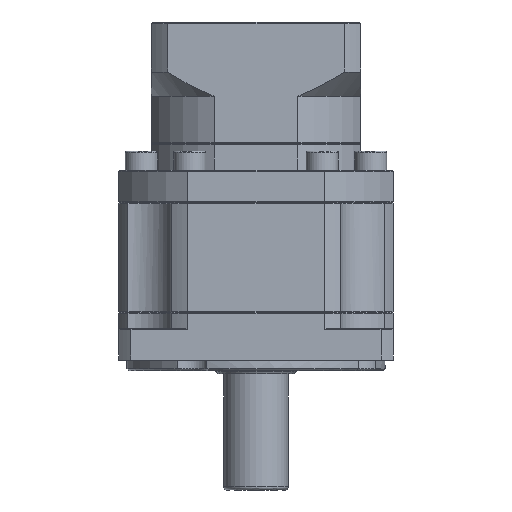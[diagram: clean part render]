
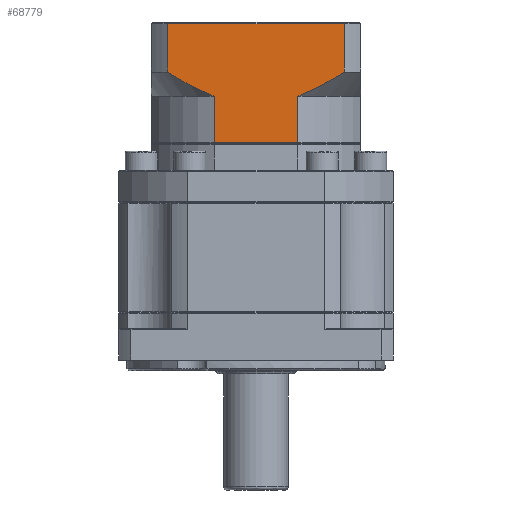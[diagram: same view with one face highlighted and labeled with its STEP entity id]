
A CAD part, front view. The second image highlights one B-rep face of the part: STEP entity #68779.
In plain terms, the highlighted planar face has unit normal (0, -1, 0).
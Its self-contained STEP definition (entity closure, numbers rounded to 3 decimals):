
#3692 = ORIENTED_EDGE ( 'NONE', *, *, #19219, .F. ) ;
#4358 = CARTESIAN_POINT ( 'NONE',  ( 0.404, -39.013, 180.652 ) ) ;
#6821 = CARTESIAN_POINT ( 'NONE',  ( -13.991, -39.013, 175.652 ) ) ;
#10899 = ORIENTED_EDGE ( 'NONE', *, *, #78548, .F. ) ;
#15903 = CARTESIAN_POINT ( 'NONE',  ( -54.368, -39.013, 183.152 ) ) ;
#16642 = AXIS2_PLACEMENT_3D ( 'NONE', #23662, #115817, #93488 ) ;
#17132 = EDGE_CURVE ( 'NONE', #107011, #53550, #99229, .T. ) ;
#19192 = CARTESIAN_POINT ( 'NONE',  ( -0.734, -39.013, 182.418 ) ) ;
#19219 = EDGE_CURVE ( 'NONE', #75888, #79891, #77732, .T. ) ;
#22879 = CARTESIAN_POINT ( 'NONE',  ( -54.368, -39.013, 198.152 ) ) ;
#23662 = CARTESIAN_POINT ( 'NONE',  ( 5.518, -39.013, 198.652 ) ) ;
#26551 = VECTOR ( 'NONE', #128887, 1000. ) ;
#28315 = CARTESIAN_POINT ( 'NONE',  ( -40.615, -39.013, 175.89 ) ) ;
#28349 = VECTOR ( 'NONE', #67213, 1000. ) ;
#29022 = CARTESIAN_POINT ( 'NONE',  ( 0.404, -39.013, 183.152 ) ) ;
#31202 = CARTESIAN_POINT ( 'NONE',  ( -54.368, -39.013, 183.152 ) ) ;
#32620 = CARTESIAN_POINT ( 'NONE',  ( -13.991, -39.013, 175.652 ) ) ;
#33776 = CARTESIAN_POINT ( 'NONE',  ( 0.404, -39.013, 198.152 ) ) ;
#35791 = CARTESIAN_POINT ( 'NONE',  ( 5.518, -39.013, 161.241 ) ) ;
#36874 = ORIENTED_EDGE ( 'NONE', *, *, #17132, .F. ) ;
#38186 = CARTESIAN_POINT ( 'NONE',  ( -54.368, -39.013, 198.152 ) ) ;
#41855 = CARTESIAN_POINT ( 'NONE',  ( 0.404, -39.013, 183.152 ) ) ;
#43727 = CARTESIAN_POINT ( 'NONE',  ( -52.099, -39.013, 181.69 ) ) ;
#45187 = LINE ( 'NONE', #4358, #93148 ) ;
#45220 = VECTOR ( 'NONE', #111273, 1000. ) ;
#46682 = VERTEX_POINT ( 'NONE', #33776 ) ;
#49417 = CARTESIAN_POINT ( 'NONE',  ( -42.514, -39.013, 176.668 ) ) ;
#49700 = CARTESIAN_POINT ( 'NONE',  ( -1.886, -39.013, 181.703 ) ) ;
#51436 = VERTEX_POINT ( 'NONE', #38186 ) ;
#53274 = CARTESIAN_POINT ( 'NONE',  ( -11.453, -39.013, 176.594 ) ) ;
#53550 = VERTEX_POINT ( 'NONE', #6821 ) ;
#53581 = CARTESIAN_POINT ( 'NONE',  ( -54.368, -39.013, 180.652 ) ) ;
#62849 = CARTESIAN_POINT ( 'NONE',  ( -39.972, -39.013, 175.652 ) ) ;
#63863 = DIRECTION ( 'NONE',  ( 0., 0., -1. ) ) ;
#63980 = ORIENTED_EDGE ( 'NONE', *, *, #106141, .T. ) ;
#66145 = LINE ( 'NONE', #22879, #86941 ) ;
#67213 = DIRECTION ( 'NONE',  ( 0., 0., -1. ) ) ;
#68779 = ADVANCED_FACE ( 'NONE', ( #126839 ), #84931, .F. ) ;
#69508 = CARTESIAN_POINT ( 'NONE',  ( -41.253, -39.013, 176.143 ) ) ;
#71575 = CARTESIAN_POINT ( 'NONE',  ( -9.001, -39.013, 177.739 ) ) ;
#72477 = CARTESIAN_POINT ( 'NONE',  ( -39.972, -39.013, 175.652 ) ) ;
#73866 = VECTOR ( 'NONE', #101844, 1000. ) ;
#75888 = VERTEX_POINT ( 'NONE', #72477 ) ;
#76501 = CARTESIAN_POINT ( 'NONE',  ( -46.203, -39.013, 178.397 ) ) ;
#76999 = EDGE_CURVE ( 'NONE', #79891, #51436, #107634, .T. ) ;
#77732 = B_SPLINE_CURVE_WITH_KNOTS ( 'NONE', 3,
 ( #99569, #28315, #69508, #49417, #120975, #80204, #76501, #130993, #43727, #15903 ),
 .UNSPECIFIED., .F., .F.,
 ( 4, 2, 2, 2, 4 ),
 ( 0.101, 0.104, 0.106, 0.11, 0.118 ),
 .UNSPECIFIED. ) ;
#77801 = LINE ( 'NONE', #35791, #26551 ) ;
#78099 = VERTEX_POINT ( 'NONE', #126214 ) ;
#78198 = ORIENTED_EDGE ( 'NONE', *, *, #76999, .F. ) ;
#78548 = EDGE_CURVE ( 'NONE', #46682, #107011, #45187, .T. ) ;
#79891 = VERTEX_POINT ( 'NONE', #31202 ) ;
#80204 = CARTESIAN_POINT ( 'NONE',  ( -44.991, -39.013, 177.792 ) ) ;
#83132 = ORIENTED_EDGE ( 'NONE', *, *, #112389, .T. ) ;
#84931 = PLANE ( 'NONE',  #16642 ) ;
#85188 = EDGE_CURVE ( 'NONE', #120870, #75888, #89904, .T. ) ;
#85518 = DIRECTION ( 'NONE',  ( -1., 0., 0. ) ) ;
#86941 = VECTOR ( 'NONE', #85518, 1000. ) ;
#89904 = LINE ( 'NONE', #62849, #73866 ) ;
#93148 = VECTOR ( 'NONE', #63863, 1000. ) ;
#93488 = DIRECTION ( 'NONE',  ( -1., 0., 0. ) ) ;
#99229 = B_SPLINE_CURVE_WITH_KNOTS ( 'NONE', 3,
 ( #29022, #19192, #49700, #114552, #125272, #71575, #53274, #32620 ),
 .UNSPECIFIED., .F., .F.,
 ( 4, 2, 2, 4 ),
 ( 0.059, 0.063, 0.067, 0.075 ),
 .UNSPECIFIED. ) ;
#99569 = CARTESIAN_POINT ( 'NONE',  ( -39.972, -39.013, 175.652 ) ) ;
#101844 = DIRECTION ( 'NONE',  ( 0., 0., 1. ) ) ;
#103731 = LINE ( 'NONE', #118680, #28349 ) ;
#106141 = EDGE_CURVE ( 'NONE', #120870, #78099, #77801, .T. ) ;
#107011 = VERTEX_POINT ( 'NONE', #41855 ) ;
#107634 = LINE ( 'NONE', #53581, #45220 ) ;
#111273 = DIRECTION ( 'NONE',  ( 0., 0., 1. ) ) ;
#112255 = EDGE_LOOP ( 'NONE', ( #10899, #83132, #78198, #3692, #121049, #63980, #117264, #36874 ) ) ;
#112389 = EDGE_CURVE ( 'NONE', #46682, #51436, #66145, .T. ) ;
#114552 = CARTESIAN_POINT ( 'NONE',  ( -4.222, -39.013, 180.318 ) ) ;
#115607 = CARTESIAN_POINT ( 'NONE',  ( -39.972, -39.013, 161.241 ) ) ;
#115817 = DIRECTION ( 'NONE',  ( 0., 1., 0. ) ) ;
#117264 = ORIENTED_EDGE ( 'NONE', *, *, #119179, .F. ) ;
#118680 = CARTESIAN_POINT ( 'NONE',  ( -13.991, -39.013, 175.652 ) ) ;
#119179 = EDGE_CURVE ( 'NONE', #53550, #78099, #103731, .T. ) ;
#120870 = VERTEX_POINT ( 'NONE', #115607 ) ;
#120975 = CARTESIAN_POINT ( 'NONE',  ( -43.138, -39.013, 176.942 ) ) ;
#121049 = ORIENTED_EDGE ( 'NONE', *, *, #85188, .F. ) ;
#125272 = CARTESIAN_POINT ( 'NONE',  ( -5.407, -39.013, 179.648 ) ) ;
#126214 = CARTESIAN_POINT ( 'NONE',  ( -13.991, -39.013, 161.241 ) ) ;
#126839 = FACE_OUTER_BOUND ( 'NONE', #112255, .T. ) ;
#128887 = DIRECTION ( 'NONE',  ( 1., 0., 0. ) ) ;
#130993 = CARTESIAN_POINT ( 'NONE',  ( -49.784, -39.013, 180.302 ) ) ;
